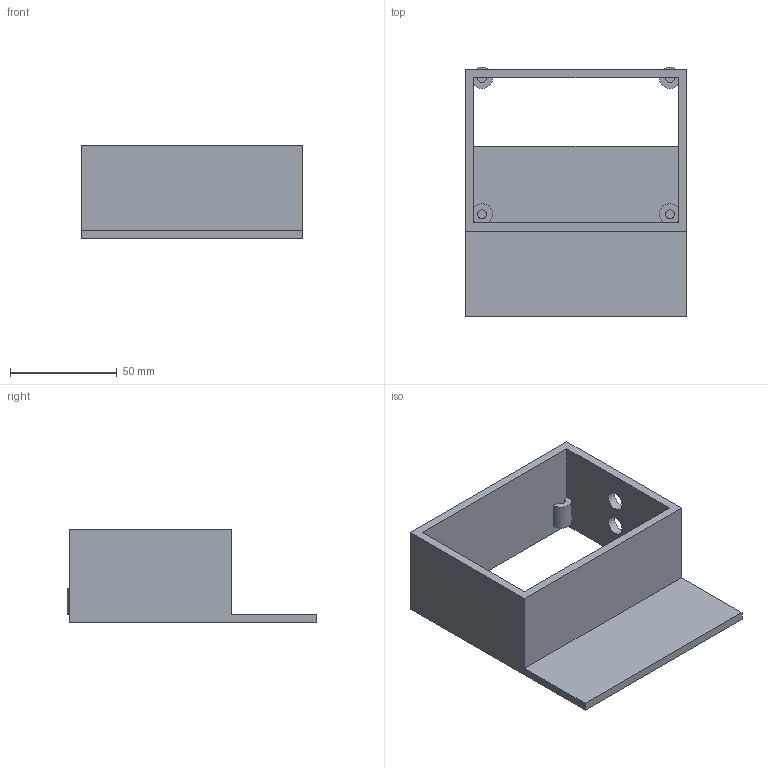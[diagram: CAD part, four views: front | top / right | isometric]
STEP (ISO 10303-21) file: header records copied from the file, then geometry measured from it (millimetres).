
FILE_DESCRIPTION(('Open CASCADE Model'),'2;1');
FILE_NAME('Open CASCADE Shape Model','2026-09-10T23:36:50',('Author'),( 'Open CASCADE'),'Open CASCADE STEP processor 7.9','Open CASCADE 7.9' ,'Unknown');
FILE_SCHEMA(('AUTOMOTIVE_DESIGN { 1 0 10303 214 1 1 1 1 }'));
Length unit declared in the file: millimetre
Products named in the file (1): Open CASCADE STEP translator 7.9 15
Bounding box: 104 x 117 x 44 mm (x, y, z)
Volume: 92900.9 mm3; surface area: 48925.8 mm2
Topology: 1 solids, 1 shells, 44 faces, 114 edges, 76 vertices
Faces by surface type: plane 30, cylinder 14
Full cylindrical faces by diameter (mm): 4.2 x2, 9 x2
Entity records: 2766 total; most frequent: CARTESIAN_POINT 601, DIRECTION 352, ORIENTED_EDGE 228, PCURVE 228, DEFINITIONAL_REPRESENTATION 228, LINE 184, VECTOR 184, EDGE_CURVE 114
